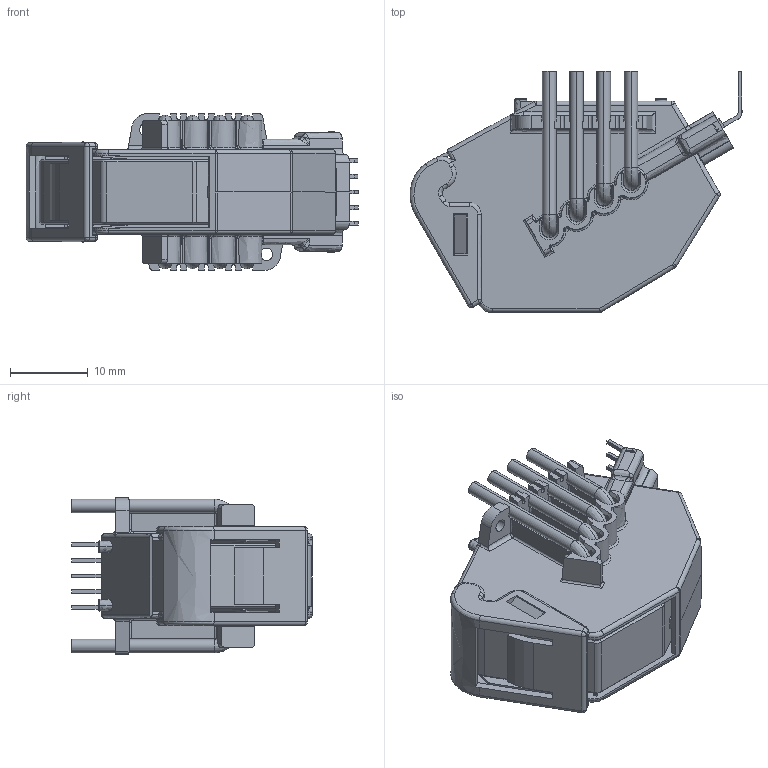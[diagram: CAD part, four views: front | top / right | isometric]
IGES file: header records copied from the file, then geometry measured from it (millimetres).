
Start section: Elysium IGES Interface
Global section: file name: C:\Users\pmo\Desktop\Blackbox\HO serie NP.igs; native system: Creo Elements/Direct Modeling 17.0C  05-Feb-2011; preprocessor: Creo Element/Direct IGES_3D V2.2; author: Unknown; organization: Unknown; date: 20140516.154704; units: millimetre
Bounding box: 42.63 x 30.93 x 20.13 mm (x, y, z)
Volume: 9172.6 mm3; surface area: 10771.1 mm2
Topology: 1 solids, 2 shells, 1606 faces, 4338 edges, 2679 vertices
Faces by surface type: bspline 1606
